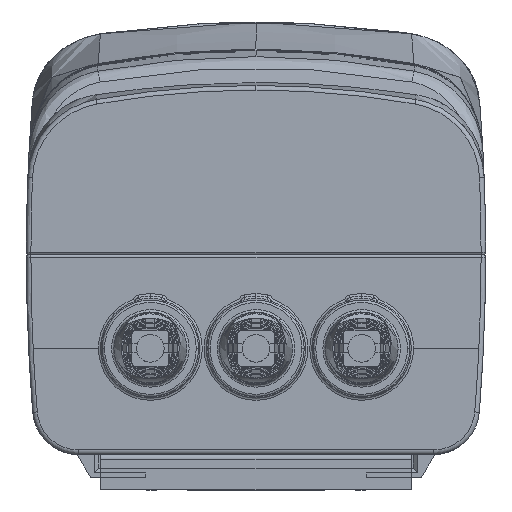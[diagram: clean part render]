
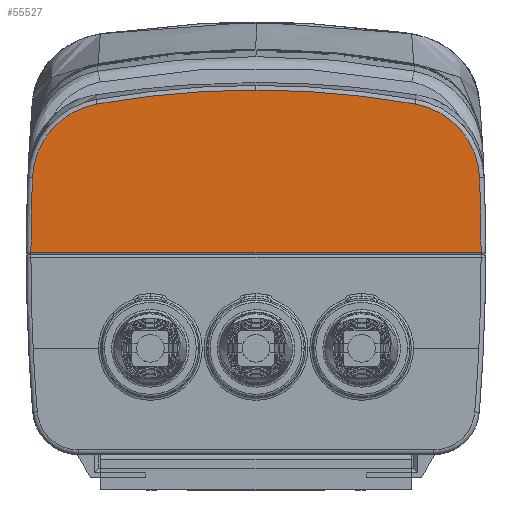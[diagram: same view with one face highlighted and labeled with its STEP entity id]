
A CAD part, front view. The second image highlights one B-rep face of the part: STEP entity #55527.
In plain terms, the highlighted planar face has unit normal (0, -1, 0).
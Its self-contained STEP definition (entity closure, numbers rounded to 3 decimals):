
#11189 = EDGE_LOOP ( 'NONE', ( #30344, #30413, #30346, #30381, #30325, #30351, #30340 ) ) ;
#12603 = CIRCLE ( 'NONE', #75153, 429. ) ;
#12606 = CIRCLE ( 'NONE', #75195, 429. ) ;
#12609 = CIRCLE ( 'NONE', #75189, 17. ) ;
#12610 = LINE ( 'NONE', #16254, #12615 ) ;
#12615 = VECTOR ( 'NONE', #16248, 1000. ) ;
#12646 = CIRCLE ( 'NONE', #75162, 199. ) ;
#12650 = CIRCLE ( 'NONE', #75159, 17. ) ;
#16217 = CARTESIAN_POINT ( 'NONE',  ( 389.505, -182.778, -13.5 ) ) ;
#16218 = CARTESIAN_POINT ( 'NONE',  ( 41.192, -182.778, 2.571 ) ) ;
#16224 = DIRECTION ( 'NONE',  ( 0., -1., 0. ) ) ;
#16225 = DIRECTION ( 'NONE',  ( 0., 0., 1. ) ) ;
#16248 = DIRECTION ( 'NONE',  ( 1., 0., 0. ) ) ;
#16254 = CARTESIAN_POINT ( 'NONE',  ( 58.505, -182.778, -13. ) ) ;
#16278 = CARTESIAN_POINT ( 'NONE',  ( -370.495, -182.778, -13.5 ) ) ;
#16310 = DIRECTION ( 'NONE',  ( 0., -1., 0. ) ) ;
#16312 = DIRECTION ( 'NONE',  ( 0., 0., 1. ) ) ;
#16342 = DIRECTION ( 'NONE',  ( 0., 0., 1. ) ) ;
#16370 = DIRECTION ( 'NONE',  ( 0., -1., 0. ) ) ;
#16383 = CARTESIAN_POINT ( 'NONE',  ( 9.505, -182.778, -176.649 ) ) ;
#16399 = CARTESIAN_POINT ( 'NONE',  ( -22.181, -182.778, 2.571 ) ) ;
#16411 = DIRECTION ( 'NONE',  ( 0., -1., 0. ) ) ;
#16425 = DIRECTION ( 'NONE',  ( 0., 0., 1. ) ) ;
#16435 = DIRECTION ( 'NONE',  ( 0., 0., 1. ) ) ;
#16466 = DIRECTION ( 'NONE',  ( 0., -1., 0. ) ) ;
#19683 = PLANE ( 'NONE',  #20803 ) ;
#19687 = CARTESIAN_POINT ( 'NONE',  ( 59.505, -182.778, -50. ) ) ;
#19705 = DIRECTION ( 'NONE',  ( 0., 0., 1. ) ) ;
#19749 = DIRECTION ( 'NONE',  ( 0., 1., 0. ) ) ;
#20803 = AXIS2_PLACEMENT_3D ( 'NONE', #19687, #19749, #19705 ) ;
#22205 = AXIS2_PLACEMENT_3D ( 'NONE', #59128, #59124, #59121 ) ;
#30325 = ORIENTED_EDGE ( 'NONE', *, *, #32980, .T. ) ;
#30340 = ORIENTED_EDGE ( 'NONE', *, *, #32977, .T. ) ;
#30344 = ORIENTED_EDGE ( 'NONE', *, *, #32949, .T. ) ;
#30346 = ORIENTED_EDGE ( 'NONE', *, *, #32958, .T. ) ;
#30351 = ORIENTED_EDGE ( 'NONE', *, *, #63573, .T. ) ;
#30381 = ORIENTED_EDGE ( 'NONE', *, *, #32951, .T. ) ;
#30413 = ORIENTED_EDGE ( 'NONE', *, *, #32945, .T. ) ;
#32945 = EDGE_CURVE ( 'NONE', #70467, #70454, #12610, .T. ) ;
#32949 = EDGE_CURVE ( 'NONE', #70464, #70467, #12603, .T. ) ;
#32951 = EDGE_CURVE ( 'NONE', #70455, #70422, #12609, .T. ) ;
#32958 = EDGE_CURVE ( 'NONE', #70454, #70455, #12606, .T. ) ;
#32977 = EDGE_CURVE ( 'NONE', #70367, #70464, #12650, .T. ) ;
#32980 = EDGE_CURVE ( 'NONE', #70422, #70393, #12646, .T. ) ;
#49248 = CIRCLE ( 'NONE', #22205, 199. ) ;
#55527 = ADVANCED_FACE ( 'NONE', ( #67416 ), #19683, .F. ) ;
#56248 = CARTESIAN_POINT ( 'NONE',  ( 9.505, -182.778, 22.351 ) ) ;
#56259 = CARTESIAN_POINT ( 'NONE',  ( -25.141, -182.778, 19.312 ) ) ;
#56326 = CARTESIAN_POINT ( 'NONE',  ( 58.179, -182.778, 3.234 ) ) ;
#56334 = CARTESIAN_POINT ( 'NONE',  ( -39.494, -182.778, -13. ) ) ;
#56347 = CARTESIAN_POINT ( 'NONE',  ( 58.505, -182.778, -13. ) ) ;
#56350 = CARTESIAN_POINT ( 'NONE',  ( -39.168, -182.778, 3.234 ) ) ;
#56362 = CARTESIAN_POINT ( 'NONE',  ( 44.152, -182.778, 19.312 ) ) ;
#59121 = DIRECTION ( 'NONE',  ( 0., 0., 1. ) ) ;
#59124 = DIRECTION ( 'NONE',  ( 0., -1., 0. ) ) ;
#59128 = CARTESIAN_POINT ( 'NONE',  ( 9.505, -182.778, -176.649 ) ) ;
#63573 = EDGE_CURVE ( 'NONE', #70393, #70367, #49248, .T. ) ;
#67416 = FACE_OUTER_BOUND ( 'NONE', #11189, .T. ) ;
#70367 = VERTEX_POINT ( 'NONE', #56259 ) ;
#70393 = VERTEX_POINT ( 'NONE', #56248 ) ;
#70422 = VERTEX_POINT ( 'NONE', #56362 ) ;
#70454 = VERTEX_POINT ( 'NONE', #56347 ) ;
#70455 = VERTEX_POINT ( 'NONE', #56326 ) ;
#70464 = VERTEX_POINT ( 'NONE', #56350 ) ;
#70467 = VERTEX_POINT ( 'NONE', #56334 ) ;
#75153 = AXIS2_PLACEMENT_3D ( 'NONE', #16217, #16224, #16225 ) ;
#75159 = AXIS2_PLACEMENT_3D ( 'NONE', #16399, #16411, #16425 ) ;
#75162 = AXIS2_PLACEMENT_3D ( 'NONE', #16383, #16466, #16435 ) ;
#75189 = AXIS2_PLACEMENT_3D ( 'NONE', #16218, #16310, #16312 ) ;
#75195 = AXIS2_PLACEMENT_3D ( 'NONE', #16278, #16370, #16342 ) ;
